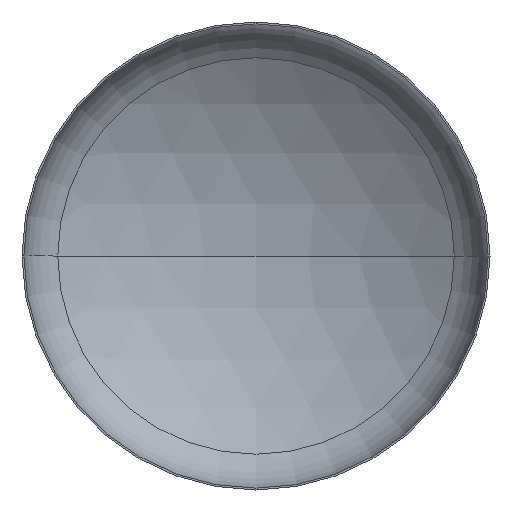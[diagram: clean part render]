
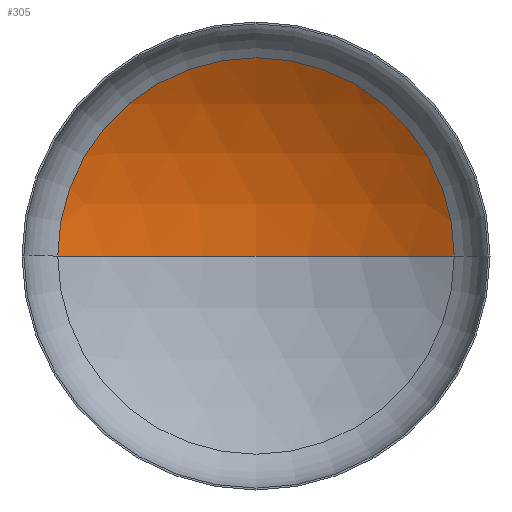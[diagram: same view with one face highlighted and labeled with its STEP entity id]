
A CAD part, front view. The second image highlights one B-rep face of the part: STEP entity #305.
In plain terms, the highlighted spherical face has radius 5200 mm.
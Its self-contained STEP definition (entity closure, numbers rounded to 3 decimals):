
#2 = VERTEX_POINT ( 'NONE', #235 ) ;
#9 = ORIENTED_EDGE ( 'NONE', *, *, #132, .T. ) ;
#25 = ORIENTED_EDGE ( 'NONE', *, *, #334, .T. ) ;
#26 = VERTEX_POINT ( 'NONE', #264 ) ;
#51 = ORIENTED_EDGE ( 'NONE', *, *, #351, .F. ) ;
#63 = VERTEX_POINT ( 'NONE', #376 ) ;
#66 = AXIS2_PLACEMENT_3D ( 'NONE', #112, #243, #369 ) ;
#72 = EDGE_LOOP ( 'NONE', ( #51, #25, #9 ) ) ;
#75 = CARTESIAN_POINT ( 'NONE',  ( 0., -3477.839, 0. ) ) ;
#93 = CARTESIAN_POINT ( 'NONE',  ( 0., -3477.839, 0. ) ) ;
#102 = AXIS2_PLACEMENT_3D ( 'NONE', #75, #103, #109 ) ;
#103 = DIRECTION ( 'NONE',  ( 0., 0., -1. ) ) ;
#109 = DIRECTION ( 'NONE',  ( -1., 0., 0. ) ) ;
#112 = CARTESIAN_POINT ( 'NONE',  ( 0., -3477.839, 0. ) ) ;
#118 = DIRECTION ( 'NONE',  ( 0., 0., -1. ) ) ;
#132 = EDGE_CURVE ( 'NONE', #26, #2, #134, .T. ) ;
#134 = CIRCLE ( 'NONE', #357, 2753.524 ) ;
#137 = SPHERICAL_SURFACE ( 'NONE', #391, 5200. ) ;
#235 = CARTESIAN_POINT ( 'NONE',  ( -2753.524, 933.295, 0. ) ) ;
#243 = DIRECTION ( 'NONE',  ( 0., 0., 1. ) ) ;
#264 = CARTESIAN_POINT ( 'NONE',  ( 2753.524, 933.295, 0. ) ) ;
#273 = CIRCLE ( 'NONE', #66, 5200. ) ;
#305 = ADVANCED_FACE ( 'NONE', ( #408 ), #137, .F. ) ;
#325 = CARTESIAN_POINT ( 'NONE',  ( 0., 933.295, 0. ) ) ;
#330 = DIRECTION ( 'NONE',  ( 1., 0., 0. ) ) ;
#331 = DIRECTION ( 'NONE',  ( 0., -1., 0. ) ) ;
#334 = EDGE_CURVE ( 'NONE', #63, #26, #392, .T. ) ;
#351 = EDGE_CURVE ( 'NONE', #63, #2, #273, .T. ) ;
#357 = AXIS2_PLACEMENT_3D ( 'NONE', #325, #331, #330 ) ;
#369 = DIRECTION ( 'NONE',  ( 1., 0., 0. ) ) ;
#376 = CARTESIAN_POINT ( 'NONE',  ( 0., 1722.161, 0. ) ) ;
#391 = AXIS2_PLACEMENT_3D ( 'NONE', #93, #118, #407 ) ;
#392 = CIRCLE ( 'NONE', #102, 5200. ) ;
#407 = DIRECTION ( 'NONE',  ( -1., 0., 0. ) ) ;
#408 = FACE_OUTER_BOUND ( 'NONE', #72, .T. ) ;
